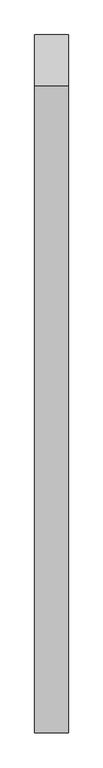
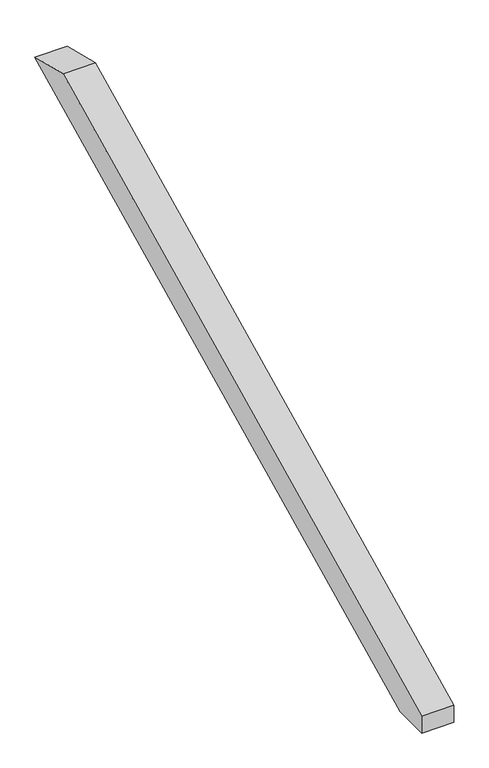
"""IFC4 building model written with IfcOpenShell, lengths in millimetres: proxy geometry, Modelos genéricos 78 : Modelos genéricos 16."""

from ifc_helpers import new_model, si_unit, frame, origin, place, context, project, spatial, polyline, outline, extrude, source, transform, mapped, element, save


def generic_models_5ebcc86e(model_context):
    return source(origin(), model_context, "Body", "SweptSolid", [
        extrude(outline(polyline([(3173.8548825, 3756.8218964), (3264.4256133, 3734.240077), (2087.0589775, 3160.0), (2018.6238165, 3160.0), (2018.6238165, 3193.3780582), (3173.8548825, 3756.8218964)])), frame((-1726.5527533, 0.0, 0.0), z_axis=(1.0, 0.0, 0.0), x_axis=(0.0, 1.0, 0.0)), (0.0, 0.0, 1.0), 60.0),
    ])


if __name__ == "__main__":
    model = new_model("IFC4")
    model_context = context("Model", 3, world=origin())
    ifc_project = project(units=[si_unit("LENGTHUNIT", "METRE", prefix="MILLI")], contexts=[model_context])
    site = spatial("IfcSite", under=ifc_project)
    building = spatial("IfcBuilding", under=site)
    placement = place(None, origin())
    generic_models_shape = generic_models_5ebcc86e(model_context)
    element("IfcBuildingElementProxy", 1, Name="Modelos genéricos 78 : Modelos genéricos 16", ObjectType="Modelos genéricos 78 : Modelos genéricos 16", at=placement, inside=building, context=model_context, shape_type="MappedRepresentation", body=[
        mapped(generic_models_shape, transform((0.0, 0.0, 0.0), x_axis=(1.0, 0.0, 0.0), y_axis=(0.0, 1.0, 0.0), z_axis=(0.0, 0.0, 1.0))),
    ])
    save(model, "model.ifc")
